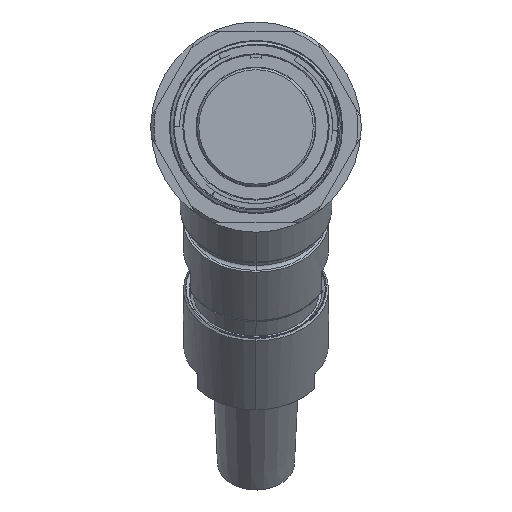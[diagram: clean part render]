
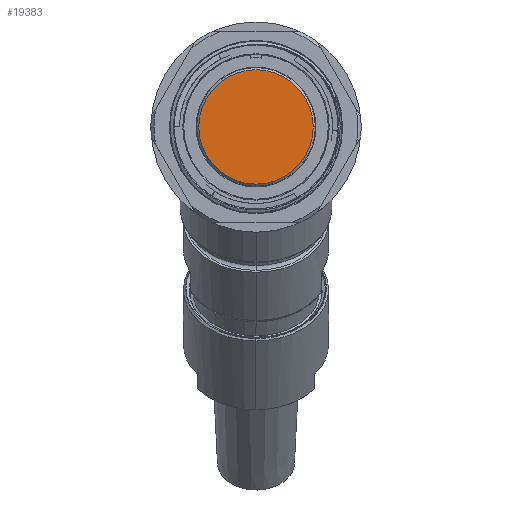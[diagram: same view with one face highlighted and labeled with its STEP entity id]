
A CAD part, top view. The second image highlights one B-rep face of the part: STEP entity #19383.
In plain terms, the highlighted planar face has unit normal (0, 0, 1).
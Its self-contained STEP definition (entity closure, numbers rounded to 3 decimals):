
#467 = DIRECTION ( 'NONE',  ( 1., 0., 0. ) ) ;
#2022 = DIRECTION ( 'NONE',  ( 0., 0., 1. ) ) ;
#6063 = DIRECTION ( 'NONE',  ( 0., 0., 1. ) ) ;
#6279 = DIRECTION ( 'NONE',  ( 1., 0., 0. ) ) ;
#7325 = AXIS2_PLACEMENT_3D ( 'NONE', #14450, #6063, #6279 ) ;
#7431 = DIRECTION ( 'NONE',  ( 0., 0., 1. ) ) ;
#7782 = VERTEX_POINT ( 'NONE', #11231 ) ;
#8611 = CIRCLE ( 'NONE', #13172, 13.767 ) ;
#9088 = AXIS2_PLACEMENT_3D ( 'NONE', #16706, #2022, #11864 ) ;
#9263 = EDGE_CURVE ( 'NONE', #7782, #15758, #8611, .T. ) ;
#10225 = ORIENTED_EDGE ( 'NONE', *, *, #14114, .T. ) ;
#11216 = CIRCLE ( 'NONE', #7325, 13.767 ) ;
#11231 = CARTESIAN_POINT ( 'NONE',  ( 13.767, 0., -0.457 ) ) ;
#11864 = DIRECTION ( 'NONE',  ( 1., 0., 0. ) ) ;
#13172 = AXIS2_PLACEMENT_3D ( 'NONE', #13931, #7431, #467 ) ;
#13463 = CARTESIAN_POINT ( 'NONE',  ( -13.767, 0., -0.457 ) ) ;
#13931 = CARTESIAN_POINT ( 'NONE',  ( 0., 0., -0.457 ) ) ;
#14114 = EDGE_CURVE ( 'NONE', #15758, #7782, #11216, .T. ) ;
#14450 = CARTESIAN_POINT ( 'NONE',  ( 0., 0., -0.457 ) ) ;
#15051 = FACE_OUTER_BOUND ( 'NONE', #16914, .T. ) ;
#15758 = VERTEX_POINT ( 'NONE', #13463 ) ;
#16706 = CARTESIAN_POINT ( 'NONE',  ( 0., 0., -0.457 ) ) ;
#16914 = EDGE_LOOP ( 'NONE', ( #10225, #18843 ) ) ;
#17029 = PLANE ( 'NONE',  #9088 ) ;
#18843 = ORIENTED_EDGE ( 'NONE', *, *, #9263, .T. ) ;
#19383 = ADVANCED_FACE ( 'NONE', ( #15051 ), #17029, .T. ) ;
